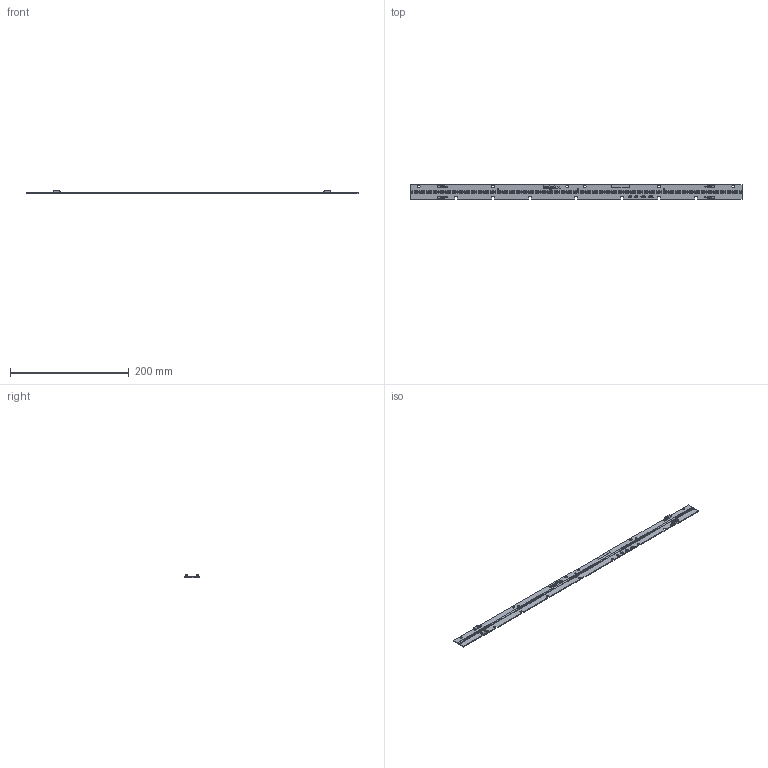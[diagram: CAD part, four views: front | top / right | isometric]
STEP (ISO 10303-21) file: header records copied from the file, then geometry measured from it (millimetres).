
FILE_DESCRIPTION (( 'STEP AP214' ), '1' );
FILE_NAME ('BXEB-TL-L0560Z ver. B (15-000719 revB).STEP', '2020-11-03T04:27:09', ( '' ), ( '' ), 'SwSTEP 2.0', 'SolidWorks 2020', '' );
FILE_SCHEMA (( 'AUTOMOTIVE_DESIGN' ));
Length unit declared in the file: millimetre
Products named in the file (1): BXEB-TL-L0560Z ver. B (15-000719 revB)
Bounding box: 560 x 24 x 5.55 mm (x, y, z)
Volume: 22738.9 mm3; surface area: 33624.9 mm2
Topology: 145 solids, 145 shells, 4004 faces, 10364 edges, 6948 vertices
Faces by surface type: plane 3356, bspline 390, cylinder 250, cone 8
Full cylindrical faces by diameter (mm): 0.597 x1, 1.019 x1, 2 x7, 4.3 x6
Entity records: 182654 total; most frequent: CARTESIAN_POINT 43596, ORIENTED_EDGE 20682, DIRECTION 16015, EDGE_CURVE 10341, VECTOR 8593, LINE 8593, VERTEX_POINT 6948, EDGE_LOOP 4337
